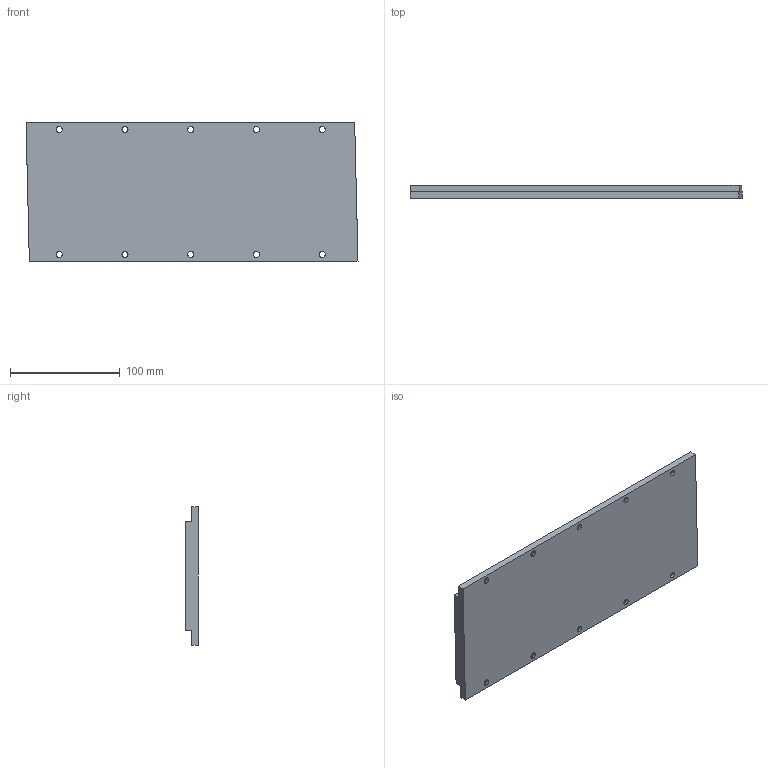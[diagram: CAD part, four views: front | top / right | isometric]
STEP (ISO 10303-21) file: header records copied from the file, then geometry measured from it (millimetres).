
FILE_DESCRIPTION (( 'STEP AP203' ), '1' );
FILE_NAME ('LMSACS3E.STEP', '2016-03-09T04:00:26', ( '' ), ( '' ), 'SwSTEP 2.0', 'SolidWorks 2010', '' );
FILE_SCHEMA (( 'CONFIG_CONTROL_DESIGN' ));
Length unit declared in the file: millimetre
Products named in the file (1): LMSACS3E
Bounding box: 303.04 x 11.7 x 126 mm (x, y, z)
Volume: 395649 mm3; surface area: 86359.4 mm2
Topology: 1 solids, 1 shells, 87 faces, 219 edges, 146 vertices
Faces by surface type: cylinder 40, plane 36, bspline 11
Entity records: 3540 total; most frequent: CARTESIAN_POINT 1320, ORIENTED_EDGE 438, DIRECTION 431, EDGE_CURVE 219, AXIS2_PLACEMENT_3D 157, VERTEX_POINT 146, EDGE_LOOP 119, VECTOR 117
